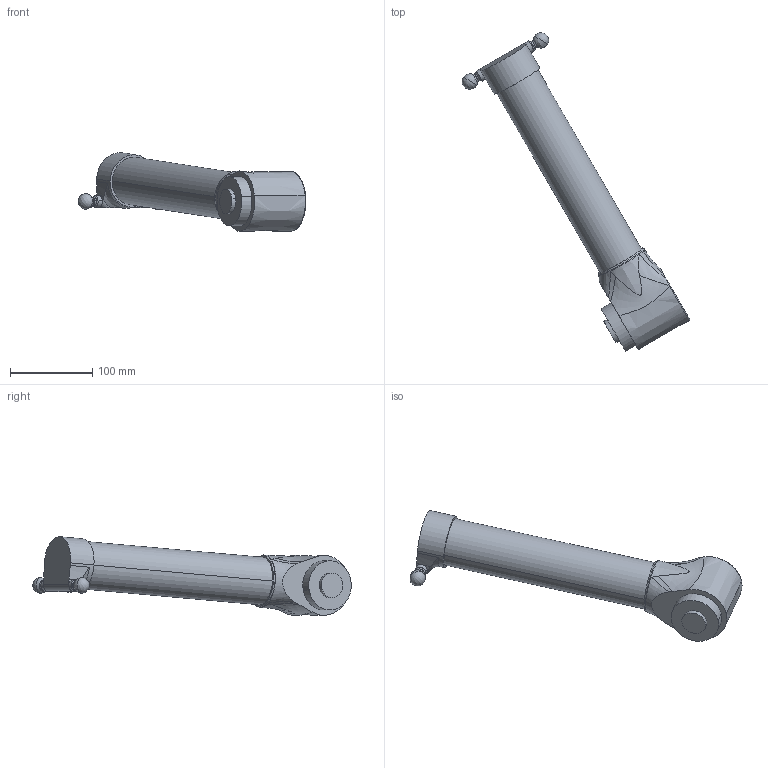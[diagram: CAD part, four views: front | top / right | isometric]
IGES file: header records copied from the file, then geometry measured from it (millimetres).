
Start section: SolidWorks IGES file using analytic representation for surfaces
Global section: file name: C:\Users\SELUHAA\OneDrive - ABB\Work items\609433\IRB360_8-1130-STD-4D_rev03\IRB360_8-1130-STD-4D_rev03_IGS_J\IRB360_8-1130-STD-4D_rev03_UA3_CAD.igs; native system: SolidWorks 2022; preprocessor: SolidWorks 2022; author: SELUHAA; date: 250115.102730; units: millimetre
Bounding box: 277.65 x 388.57 x 95.8 mm (x, y, z)
Volume: 1285468.3 mm3; surface area: 93663.8 mm2
Topology: 1 solids, 1 shells, 71 faces, 168 edges, 99 vertices
Faces by surface type: revolution 44, bspline 17, plane 10
